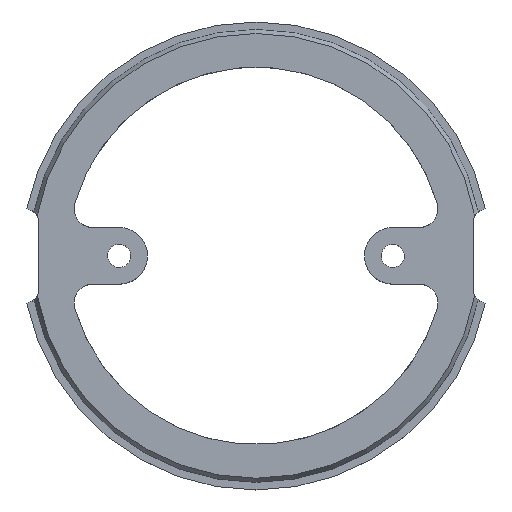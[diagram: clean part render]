
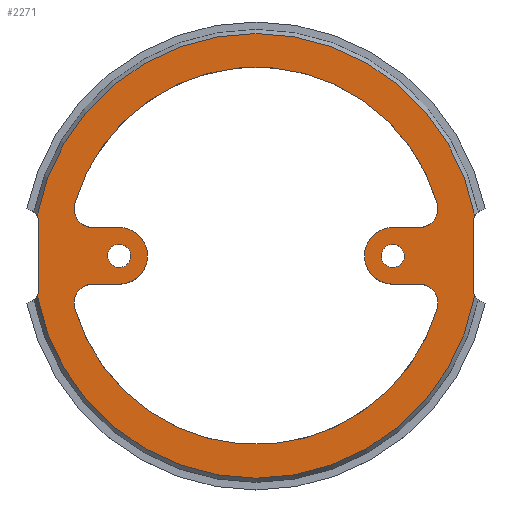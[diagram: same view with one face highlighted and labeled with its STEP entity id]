
A CAD part, top view. The second image highlights one B-rep face of the part: STEP entity #2271.
In plain terms, the highlighted planar face has unit normal (0, 0, 1).
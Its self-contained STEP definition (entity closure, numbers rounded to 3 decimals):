
#81=CARTESIAN_POINT('Vertex',(23.,3.5,10.)) ;
#84=CARTESIAN_POINT('Line Origine',(23.,0.,10.)) ;
#88=CARTESIAN_POINT('Vertex',(23.,-3.5,10.)) ;
#444=CARTESIAN_POINT('Vertex',(-23.,-3.5,10.)) ;
#447=CARTESIAN_POINT('Line Origine',(-23.,0.,10.)) ;
#451=CARTESIAN_POINT('Vertex',(-23.,3.5,10.)) ;
#507=CARTESIAN_POINT('Vertex',(-17.292,3.,10.)) ;
#510=CARTESIAN_POINT('Line Origine',(-15.896,3.,10.)) ;
#514=CARTESIAN_POINT('Vertex',(-14.5,3.,10.)) ;
#587=CARTESIAN_POINT('Vertex',(-14.5,-3.,10.)) ;
#590=CARTESIAN_POINT('Line Origine',(-15.896,-3.,10.)) ;
#594=CARTESIAN_POINT('Vertex',(-17.292,-3.,10.)) ;
#707=CARTESIAN_POINT('Vertex',(17.292,-3.,10.)) ;
#710=CARTESIAN_POINT('Line Origine',(15.896,-3.,10.)) ;
#714=CARTESIAN_POINT('Vertex',(14.5,-3.,10.)) ;
#782=CARTESIAN_POINT('Vertex',(14.5,3.,10.)) ;
#785=CARTESIAN_POINT('Line Origine',(15.896,3.,10.)) ;
#789=CARTESIAN_POINT('Vertex',(17.292,3.,10.)) ;
#1089=CARTESIAN_POINT('Axis2P3D Location',(-17.292,-5.,10.)) ;
#1093=CARTESIAN_POINT('Vertex',(-19.213,-5.556,10.)) ;
#1203=CARTESIAN_POINT('Vertex',(19.213,-5.556,10.)) ;
#1206=CARTESIAN_POINT('Axis2P3D Location',(17.292,-5.,10.)) ;
#1283=CARTESIAN_POINT('Vertex',(13.421,-0.589,10.)) ;
#1286=CARTESIAN_POINT('Axis2P3D Location',(14.5,0.,10.)) ;
#1290=CARTESIAN_POINT('Vertex',(15.579,0.589,10.)) ;
#1305=CARTESIAN_POINT('Axis2P3D Location',(14.5,0.,10.)) ;
#1326=CARTESIAN_POINT('Vertex',(-13.421,0.589,10.)) ;
#1329=CARTESIAN_POINT('Axis2P3D Location',(-14.5,0.,10.)) ;
#1333=CARTESIAN_POINT('Vertex',(-15.579,-0.589,10.)) ;
#1348=CARTESIAN_POINT('Axis2P3D Location',(-14.5,0.,10.)) ;
#1369=CARTESIAN_POINT('Vertex',(19.213,5.556,10.)) ;
#1372=CARTESIAN_POINT('Axis2P3D Location',(17.292,5.,10.)) ;
#1389=CARTESIAN_POINT('Axis2P3D Location',(14.5,0.,10.)) ;
#1410=CARTESIAN_POINT('Vertex',(-19.213,5.556,10.)) ;
#1413=CARTESIAN_POINT('Axis2P3D Location',(-17.292,5.,10.)) ;
#1430=CARTESIAN_POINT('Axis2P3D Location',(-14.5,0.,10.)) ;
#1536=CARTESIAN_POINT('Axis2P3D Location',(0.,0.,10.)) ;
#1644=CARTESIAN_POINT('Axis2P3D Location',(0.,0.,10.)) ;
#2035=CARTESIAN_POINT('Vertex',(23.186,4.223,10.)) ;
#2038=CARTESIAN_POINT('Axis2P3D Location',(24.5,3.5,10.)) ;
#2066=CARTESIAN_POINT('Vertex',(-23.186,4.223,10.)) ;
#2069=CARTESIAN_POINT('Axis2P3D Location',(-24.5,3.5,10.)) ;
#2092=CARTESIAN_POINT('Axis2P3D Location',(0.,0.,10.)) ;
#2096=CARTESIAN_POINT('Vertex',(0.,23.567,10.)) ;
#2099=CARTESIAN_POINT('Axis2P3D Location',(0.,0.,10.)) ;
#2168=CARTESIAN_POINT('Vertex',(-23.186,-4.223,10.)) ;
#2171=CARTESIAN_POINT('Axis2P3D Location',(-24.5,-3.5,10.)) ;
#2199=CARTESIAN_POINT('Vertex',(23.186,-4.223,10.)) ;
#2202=CARTESIAN_POINT('Axis2P3D Location',(24.5,-3.5,10.)) ;
#2220=CARTESIAN_POINT('Axis2P3D Location',(0.,0.,10.)) ;
#2225=CARTESIAN_POINT('Axis2P3D Location',(0.,0.,10.)) ;
#2229=CARTESIAN_POINT('Vertex',(0.,-23.567,10.)) ;
#2232=CARTESIAN_POINT('Axis2P3D Location',(0.,0.,10.)) ;
#86=VECTOR('Line Direction',#85,1.) ;
#449=VECTOR('Line Direction',#448,1.) ;
#512=VECTOR('Line Direction',#511,1.) ;
#592=VECTOR('Line Direction',#591,1.) ;
#712=VECTOR('Line Direction',#711,1.) ;
#787=VECTOR('Line Direction',#786,1.) ;
#85=DIRECTION('Vector Direction',(0.,1.,0.)) ;
#448=DIRECTION('Vector Direction',(0.,1.,0.)) ;
#511=DIRECTION('Vector Direction',(1.,0.,0.)) ;
#591=DIRECTION('Vector Direction',(-1.,0.,0.)) ;
#711=DIRECTION('Vector Direction',(-1.,0.,0.)) ;
#786=DIRECTION('Vector Direction',(1.,0.,0.)) ;
#1090=DIRECTION('Axis2P3D Direction',(0.,-0.,1.)) ;
#1207=DIRECTION('Axis2P3D Direction',(0.,0.,-1.)) ;
#1287=DIRECTION('Axis2P3D Direction',(0.,-0.,1.)) ;
#1306=DIRECTION('Axis2P3D Direction',(0.,-0.,1.)) ;
#1330=DIRECTION('Axis2P3D Direction',(0.,0.,1.)) ;
#1349=DIRECTION('Axis2P3D Direction',(0.,0.,1.)) ;
#1373=DIRECTION('Axis2P3D Direction',(0.,0.,-1.)) ;
#1390=DIRECTION('Axis2P3D Direction',(0.,0.,-1.)) ;
#1414=DIRECTION('Axis2P3D Direction',(0.,0.,1.)) ;
#1431=DIRECTION('Axis2P3D Direction',(0.,0.,1.)) ;
#1537=DIRECTION('Axis2P3D Direction',(0.,0.,1.)) ;
#1645=DIRECTION('Axis2P3D Direction',(0.,0.,1.)) ;
#2039=DIRECTION('Axis2P3D Direction',(0.,0.,-1.)) ;
#2070=DIRECTION('Axis2P3D Direction',(0.,0.,1.)) ;
#2093=DIRECTION('Axis2P3D Direction',(0.,0.,1.)) ;
#2100=DIRECTION('Axis2P3D Direction',(0.,0.,1.)) ;
#2172=DIRECTION('Axis2P3D Direction',(0.,0.,1.)) ;
#2203=DIRECTION('Axis2P3D Direction',(0.,0.,-1.)) ;
#2221=DIRECTION('Axis2P3D Direction',(0.,0.,1.)) ;
#2222=DIRECTION('Axis2P3D XDirection',(1.,0.,0.)) ;
#2226=DIRECTION('Axis2P3D Direction',(0.,0.,1.)) ;
#2233=DIRECTION('Axis2P3D Direction',(0.,0.,1.)) ;
#1091=AXIS2_PLACEMENT_3D('Circle Axis2P3D',#1089,#1090,$) ;
#1208=AXIS2_PLACEMENT_3D('Circle Axis2P3D',#1206,#1207,$) ;
#1288=AXIS2_PLACEMENT_3D('Circle Axis2P3D',#1286,#1287,$) ;
#1307=AXIS2_PLACEMENT_3D('Circle Axis2P3D',#1305,#1306,$) ;
#1331=AXIS2_PLACEMENT_3D('Circle Axis2P3D',#1329,#1330,$) ;
#1350=AXIS2_PLACEMENT_3D('Circle Axis2P3D',#1348,#1349,$) ;
#1374=AXIS2_PLACEMENT_3D('Circle Axis2P3D',#1372,#1373,$) ;
#1391=AXIS2_PLACEMENT_3D('Circle Axis2P3D',#1389,#1390,$) ;
#1415=AXIS2_PLACEMENT_3D('Circle Axis2P3D',#1413,#1414,$) ;
#1432=AXIS2_PLACEMENT_3D('Circle Axis2P3D',#1430,#1431,$) ;
#1538=AXIS2_PLACEMENT_3D('Circle Axis2P3D',#1536,#1537,$) ;
#1646=AXIS2_PLACEMENT_3D('Circle Axis2P3D',#1644,#1645,$) ;
#2040=AXIS2_PLACEMENT_3D('Circle Axis2P3D',#2038,#2039,$) ;
#2071=AXIS2_PLACEMENT_3D('Circle Axis2P3D',#2069,#2070,$) ;
#2094=AXIS2_PLACEMENT_3D('Circle Axis2P3D',#2092,#2093,$) ;
#2101=AXIS2_PLACEMENT_3D('Circle Axis2P3D',#2099,#2100,$) ;
#2173=AXIS2_PLACEMENT_3D('Circle Axis2P3D',#2171,#2172,$) ;
#2204=AXIS2_PLACEMENT_3D('Circle Axis2P3D',#2202,#2203,$) ;
#2223=AXIS2_PLACEMENT_3D('Plane Axis2P3D',#2220,#2221,#2222) ;
#2227=AXIS2_PLACEMENT_3D('Circle Axis2P3D',#2225,#2226,$) ;
#2234=AXIS2_PLACEMENT_3D('Circle Axis2P3D',#2232,#2233,$) ;
#87=LINE('Line',#84,#86) ;
#450=LINE('Line',#447,#449) ;
#513=LINE('Line',#510,#512) ;
#593=LINE('Line',#590,#592) ;
#713=LINE('Line',#710,#712) ;
#788=LINE('Line',#785,#787) ;
#1092=CIRCLE('generated circle',#1091,2.) ;
#1209=CIRCLE('generated circle',#1208,2.) ;
#1289=CIRCLE('generated circle',#1288,1.23) ;
#1308=CIRCLE('generated circle',#1307,1.23) ;
#1332=CIRCLE('generated circle',#1331,1.23) ;
#1351=CIRCLE('generated circle',#1350,1.23) ;
#1375=CIRCLE('generated circle',#1374,2.) ;
#1392=CIRCLE('generated circle',#1391,3.) ;
#1416=CIRCLE('generated circle',#1415,2.) ;
#1433=CIRCLE('generated circle',#1432,3.) ;
#1539=CIRCLE('generated circle',#1538,20.) ;
#1647=CIRCLE('generated circle',#1646,20.) ;
#2041=CIRCLE('generated circle',#2040,1.5) ;
#2072=CIRCLE('generated circle',#2071,1.5) ;
#2095=CIRCLE('generated circle',#2094,23.567) ;
#2102=CIRCLE('generated circle',#2101,23.567) ;
#2174=CIRCLE('generated circle',#2173,1.5) ;
#2205=CIRCLE('generated circle',#2204,1.5) ;
#2228=CIRCLE('generated circle',#2227,23.567) ;
#2235=CIRCLE('generated circle',#2234,23.567) ;
#2224=PLANE('',#2223) ;
#2262=FACE_BOUND('',#2249,.T.) ;
#2266=FACE_BOUND('',#2263,.T.) ;
#2270=FACE_BOUND('',#2267,.T.) ;
#90=EDGE_CURVE('',#89,#82,#87,.T.) ;
#453=EDGE_CURVE('',#445,#452,#450,.T.) ;
#516=EDGE_CURVE('',#508,#515,#513,.T.) ;
#596=EDGE_CURVE('',#588,#595,#593,.T.) ;
#716=EDGE_CURVE('',#708,#715,#713,.T.) ;
#791=EDGE_CURVE('',#783,#790,#788,.T.) ;
#1095=EDGE_CURVE('',#1094,#595,#1092,.F.) ;
#1210=EDGE_CURVE('',#708,#1204,#1209,.T.) ;
#1292=EDGE_CURVE('',#1284,#1291,#1289,.T.) ;
#1309=EDGE_CURVE('',#1291,#1284,#1308,.T.) ;
#1335=EDGE_CURVE('',#1327,#1334,#1332,.T.) ;
#1352=EDGE_CURVE('',#1334,#1327,#1351,.T.) ;
#1376=EDGE_CURVE('',#1370,#790,#1375,.T.) ;
#1393=EDGE_CURVE('',#783,#715,#1392,.F.) ;
#1417=EDGE_CURVE('',#508,#1411,#1416,.F.) ;
#1434=EDGE_CURVE('',#588,#515,#1433,.T.) ;
#1540=EDGE_CURVE('',#1370,#1411,#1539,.T.) ;
#1648=EDGE_CURVE('',#1094,#1204,#1647,.T.) ;
#2042=EDGE_CURVE('',#2036,#82,#2041,.F.) ;
#2073=EDGE_CURVE('',#2067,#452,#2072,.F.) ;
#2098=EDGE_CURVE('',#2097,#2067,#2095,.T.) ;
#2103=EDGE_CURVE('',#2036,#2097,#2102,.T.) ;
#2175=EDGE_CURVE('',#445,#2169,#2174,.F.) ;
#2206=EDGE_CURVE('',#89,#2200,#2205,.F.) ;
#2231=EDGE_CURVE('',#2169,#2230,#2228,.T.) ;
#2236=EDGE_CURVE('',#2230,#2200,#2235,.T.) ;
#2237=EDGE_LOOP('',(#2238,#2239,#2240,#2241,#2242,#2243,#2244,#2245,#2246,#2247)) ;
#2249=EDGE_LOOP('',(#2250,#2251,#2252,#2253,#2254,#2255,#2256,#2257,#2258,#2259,#2260,#2261)) ;
#2263=EDGE_LOOP('',(#2264,#2265)) ;
#2267=EDGE_LOOP('',(#2268,#2269)) ;
#2238=ORIENTED_EDGE('',*,*,#2206,.F.) ;
#2239=ORIENTED_EDGE('',*,*,#90,.T.) ;
#2240=ORIENTED_EDGE('',*,*,#2042,.F.) ;
#2241=ORIENTED_EDGE('',*,*,#2103,.T.) ;
#2242=ORIENTED_EDGE('',*,*,#2098,.T.) ;
#2243=ORIENTED_EDGE('',*,*,#2073,.T.) ;
#2244=ORIENTED_EDGE('',*,*,#453,.F.) ;
#2245=ORIENTED_EDGE('',*,*,#2175,.T.) ;
#2246=ORIENTED_EDGE('',*,*,#2231,.T.) ;
#2247=ORIENTED_EDGE('',*,*,#2236,.T.) ;
#2250=ORIENTED_EDGE('',*,*,#1095,.T.) ;
#2251=ORIENTED_EDGE('',*,*,#596,.F.) ;
#2252=ORIENTED_EDGE('',*,*,#1434,.T.) ;
#2253=ORIENTED_EDGE('',*,*,#516,.F.) ;
#2254=ORIENTED_EDGE('',*,*,#1417,.T.) ;
#2255=ORIENTED_EDGE('',*,*,#1540,.F.) ;
#2256=ORIENTED_EDGE('',*,*,#1376,.T.) ;
#2257=ORIENTED_EDGE('',*,*,#791,.F.) ;
#2258=ORIENTED_EDGE('',*,*,#1393,.T.) ;
#2259=ORIENTED_EDGE('',*,*,#716,.F.) ;
#2260=ORIENTED_EDGE('',*,*,#1210,.T.) ;
#2261=ORIENTED_EDGE('',*,*,#1648,.F.) ;
#2264=ORIENTED_EDGE('',*,*,#1352,.F.) ;
#2265=ORIENTED_EDGE('',*,*,#1335,.F.) ;
#2268=ORIENTED_EDGE('',*,*,#1309,.F.) ;
#2269=ORIENTED_EDGE('',*,*,#1292,.F.) ;
#82=VERTEX_POINT('',#81) ;
#89=VERTEX_POINT('',#88) ;
#445=VERTEX_POINT('',#444) ;
#452=VERTEX_POINT('',#451) ;
#508=VERTEX_POINT('',#507) ;
#515=VERTEX_POINT('',#514) ;
#588=VERTEX_POINT('',#587) ;
#595=VERTEX_POINT('',#594) ;
#708=VERTEX_POINT('',#707) ;
#715=VERTEX_POINT('',#714) ;
#783=VERTEX_POINT('',#782) ;
#790=VERTEX_POINT('',#789) ;
#1094=VERTEX_POINT('',#1093) ;
#1204=VERTEX_POINT('',#1203) ;
#1284=VERTEX_POINT('',#1283) ;
#1291=VERTEX_POINT('',#1290) ;
#1327=VERTEX_POINT('',#1326) ;
#1334=VERTEX_POINT('',#1333) ;
#1370=VERTEX_POINT('',#1369) ;
#1411=VERTEX_POINT('',#1410) ;
#2036=VERTEX_POINT('',#2035) ;
#2067=VERTEX_POINT('',#2066) ;
#2097=VERTEX_POINT('',#2096) ;
#2169=VERTEX_POINT('',#2168) ;
#2200=VERTEX_POINT('',#2199) ;
#2230=VERTEX_POINT('',#2229) ;
#2271=ADVANCED_FACE('Corps principal',(#2248,#2262,#2266,#2270),#2224,.T.) ;
#2248=FACE_OUTER_BOUND('',#2237,.T.) ;
